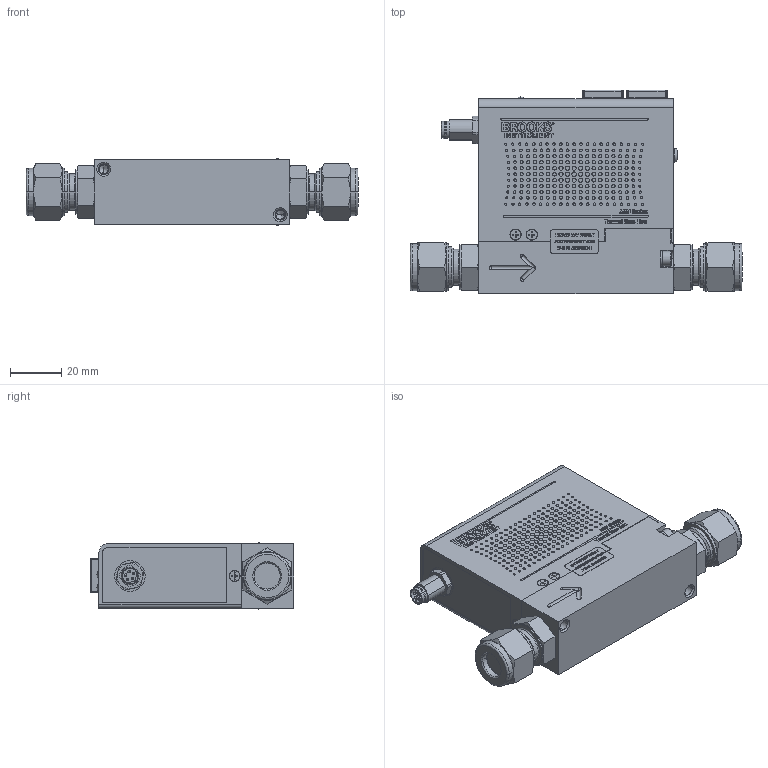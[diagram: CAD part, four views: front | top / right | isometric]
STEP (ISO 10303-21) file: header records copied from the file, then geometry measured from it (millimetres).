
FILE_DESCRIPTION (( 'STEP AP203' ), '1' );
FILE_NAME ('AMF-C-7-S-1J-A.STEP', '2026-05-21T17:45:59', ( '' ), ( '' ), 'SwSTEP 2.0', 'SolidWorks 2023', '' );
FILE_SCHEMA (( 'CONFIG_CONTROL_DESIGN' ));
Products named in the file (1): AMF-C-7-S-1J-A
Bounding box: 129.8 x 79.61 x 25.82 mm (x, y, z)
Volume: 35782.4 mm3; surface area: 51956.1 mm2
Topology: 34 solids, 37 shells, 4044 faces, 10158 edges, 6584 vertices
Faces by surface type: plane 2033, bspline 1279, cylinder 489, cone 205, torus 21, sphere 17
Entity records: 148565 total; most frequent: CARTESIAN_POINT 60631, ORIENTED_EDGE 20224, DIRECTION 13782, EDGE_CURVE 10112, VERTEX_POINT 6568, VECTOR 6120, LINE 6120, EDGE_LOOP 4534
